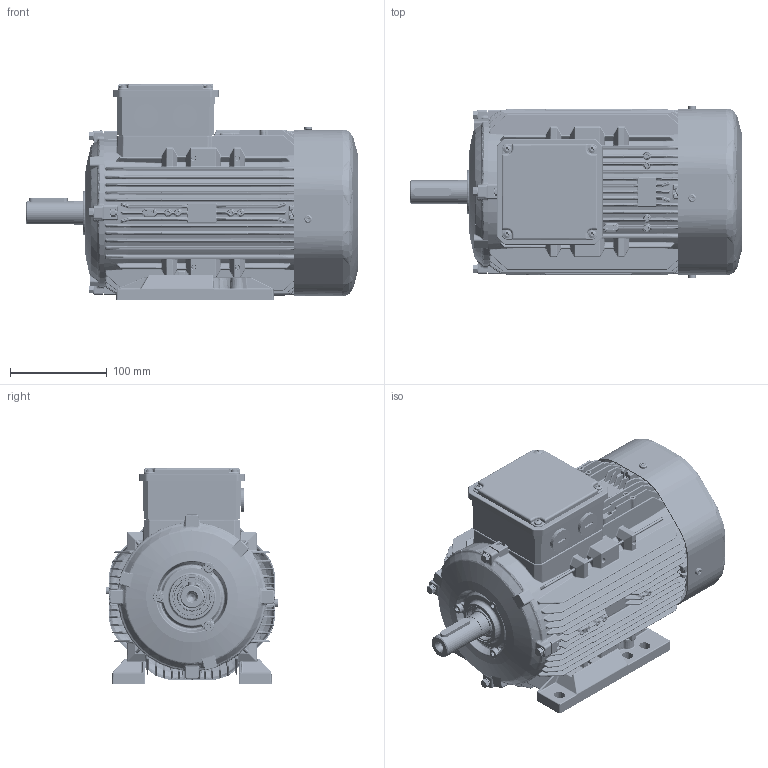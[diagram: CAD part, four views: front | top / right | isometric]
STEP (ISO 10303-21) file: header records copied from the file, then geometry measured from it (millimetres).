
FILE_DESCRIPTION(/* description */ (''),/* implementation_level */ '2;1');
FILE_NAME(/* name */ '6521133xx_AA.stp',/* time_stamp */ '2016-05-20T16:38:25+03:00',/* author */ (''),/* organization */ (''),/* preprocessor_version */ 'ST-DEVELOPER v15',/* originating_system */ 'SIEMENS PLM Software NX 9.0',/* authorisation */ '');
FILE_SCHEMA (('CONFIG_CONTROL_DESIGN'));
Products named in the file (1): 6521133xx_AA
Bounding box: 343.54 x 178.35 x 223.05 mm (x, y, z)
Volume: 3913358.5 mm3; surface area: 1231714.2 mm2
Topology: 112 solids, 116 shells, 14060 faces, 33413 edges, 19242 vertices
Faces by surface type: bspline 5154, cylinder 4123, plane 2805, torus 774, cone 625, sphere 579
Full cylindrical faces by diameter (mm): 2 x14, 2.5 x2, 3.242 x3, 3.3 x4, 3.5 x3, 4 x12, 4.134 x6, 4.5 x6, 4.722 x3, 5 x47, 5.3 x2, 6.8 x1, 7 x2, 7.137 x24, 8 x11, 8.4 x1, 9 x6, 9.5 x6, 9.874 x1, 10 x10, 12 x2, 14 x2, 21 x2, 23.38 x2, 23.9 x1, 24 x1, 25 x7, 25.2 x2, 27.5 x1, 30 x2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
Entity records: 529987 total; most frequent: CARTESIAN_POINT 242918, ORIENTED_EDGE 63996, DIRECTION 54047, EDGE_CURVE 31998, AXIS2_PLACEMENT_3D 22322, VERTEX_POINT 18996, EDGE_LOOP 15278, ADVANCED_FACE 14054
